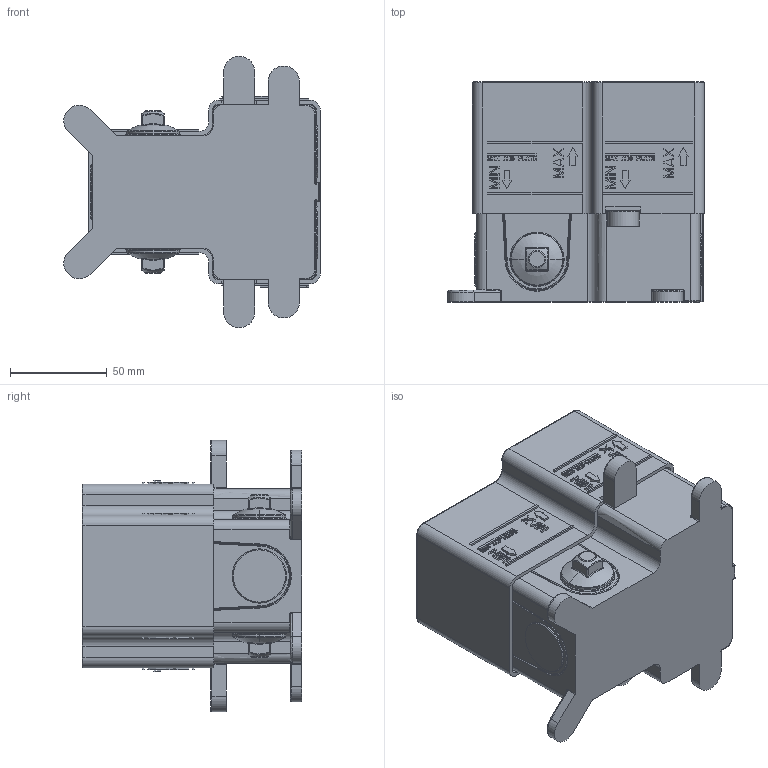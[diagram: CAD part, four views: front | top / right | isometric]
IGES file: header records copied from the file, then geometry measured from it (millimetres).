
Start section:  PTC IGES file: 98011.igs
Global section: file name: 98011.igs; native system: Creo Parametric by PTC Inc.; preprocessor: 2018100; author: volponeff; organization: Unknown; date: 20200717.094608; units: millimetre
Bounding box: 132.33 x 113.5 x 140 mm (x, y, z)
Surface area: 148659.2 mm2 (no closed solid volume)
Topology: 0 solids, 0 shells, 2776 faces, 13894 edges, 13870 vertices
Faces by surface type: bspline 1794, revolution 982
